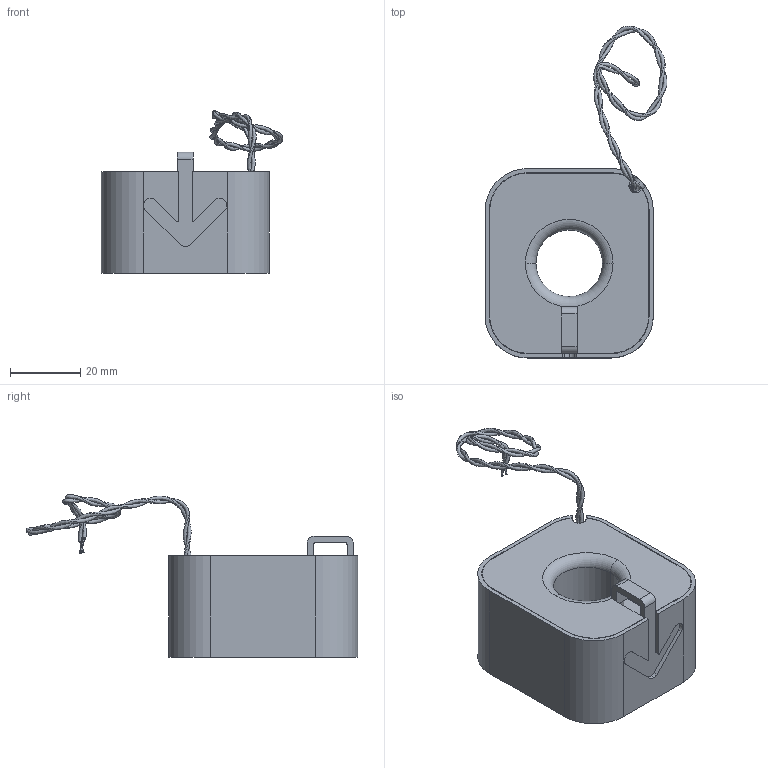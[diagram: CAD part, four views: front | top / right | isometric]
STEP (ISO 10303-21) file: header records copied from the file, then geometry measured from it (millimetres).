
FILE_DESCRIPTION((''),'2;1');
FILE_NAME('A9XRCT160-3D_SIMPLIFIED','2024-07-10T09:11:17',('SESA530330'),('Schneider-Electric'),'CREO PARAMETRIC BY PTC INC, 2021284','CREO PARAMETRIC BY PTC INC, 2021284','');
FILE_SCHEMA(('AP242_MANAGED_MODEL_BASED_3D_ENGINEERING_MIM_LF { 1 0 10303 442 1 1 4 }'));
Length unit declared in the file: millimetre
Products named in the file (1): A9XRCT160-3D_SIMPLIFIED
Bounding box: 51.88 x 94.66 x 46.37 mm (x, y, z)
Volume: 25628.5 mm3; surface area: 27057.8 mm2
Topology: 4 solids, 4 shells, 159 faces, 434 edges, 283 vertices
Faces by surface type: plane 85, cylinder 45, bspline 9, extrusion 8, torus 6, revolution 4, cone 2
Entity records: 11693 total; most frequent: CARTESIAN_POINT 6500, ORIENTED_EDGE 868, DIRECTION 794, EDGE_CURVE 434, VERTEX_POINT 283, AXIS2_PLACEMENT_3D 264, VECTOR 262, LINE 254
